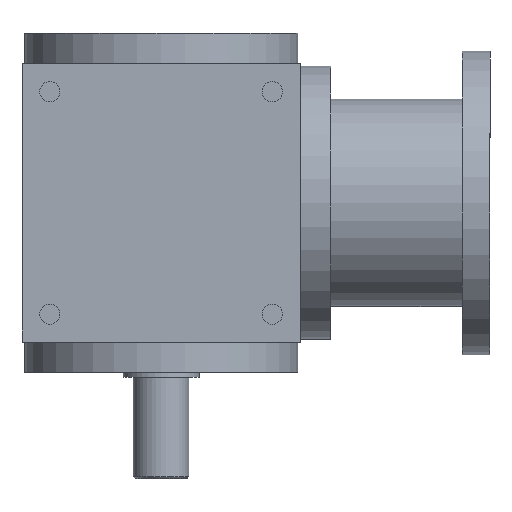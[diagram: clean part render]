
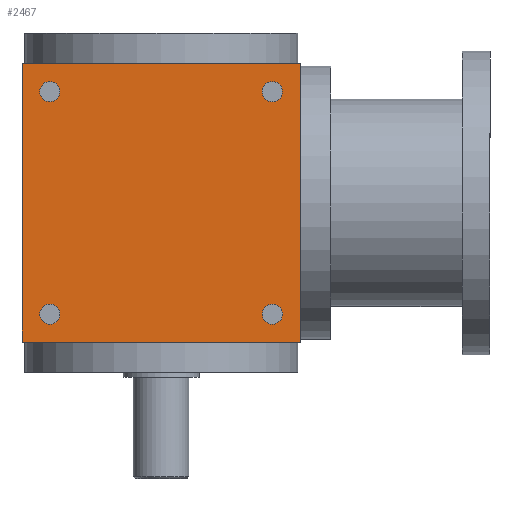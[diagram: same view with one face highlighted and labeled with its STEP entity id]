
A CAD part, left-side view. The second image highlights one B-rep face of the part: STEP entity #2467.
In plain terms, the highlighted planar face has unit normal (-1, 0, 0).
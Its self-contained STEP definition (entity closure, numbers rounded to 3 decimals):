
#134 = EDGE_LOOP ( 'NONE', ( #4247, #3484 ) ) ;
#158 = CIRCLE ( 'NONE', #550, 4. ) ;
#201 = EDGE_CURVE ( 'NONE', #5040, #2245, #2135, .T. ) ;
#222 = VERTEX_POINT ( 'NONE', #4947 ) ;
#319 = EDGE_LOOP ( 'NONE', ( #2354, #1350 ) ) ;
#322 = DIRECTION ( 'NONE',  ( 0., -1., 0. ) ) ;
#334 = DIRECTION ( 'NONE',  ( 0., 0., -1. ) ) ;
#380 = DIRECTION ( 'NONE',  ( 1., 0., 0. ) ) ;
#459 = ORIENTED_EDGE ( 'NONE', *, *, #3341, .F. ) ;
#488 = CARTESIAN_POINT ( 'NONE',  ( -55., -44., -44. ) ) ;
#513 = DIRECTION ( 'NONE',  ( 0., 0., -1. ) ) ;
#550 = AXIS2_PLACEMENT_3D ( 'NONE', #4730, #4689, #4655 ) ;
#554 = VERTEX_POINT ( 'NONE', #3748 ) ;
#567 = EDGE_CURVE ( 'NONE', #4233, #869, #1444, .T. ) ;
#684 = CARTESIAN_POINT ( 'NONE',  ( -55., 55., 55. ) ) ;
#691 = EDGE_CURVE ( 'NONE', #1666, #222, #1257, .T. ) ;
#702 = CARTESIAN_POINT ( 'NONE',  ( -55., 44., -48. ) ) ;
#726 = DIRECTION ( 'NONE',  ( 0., 0., -1. ) ) ;
#869 = VERTEX_POINT ( 'NONE', #1235 ) ;
#908 = CARTESIAN_POINT ( 'NONE',  ( -55., 55., 55. ) ) ;
#914 = DIRECTION ( 'NONE',  ( 1., 0., 0. ) ) ;
#937 = EDGE_LOOP ( 'NONE', ( #2712, #1329 ) ) ;
#944 = CARTESIAN_POINT ( 'NONE',  ( -55., -55., -55. ) ) ;
#968 = LINE ( 'NONE', #4923, #1025 ) ;
#979 = CARTESIAN_POINT ( 'NONE',  ( -55., -44., 48. ) ) ;
#1014 = DIRECTION ( 'NONE',  ( 1., 0., 0. ) ) ;
#1025 = VECTOR ( 'NONE', #4911, 1000. ) ;
#1042 = CARTESIAN_POINT ( 'NONE',  ( -55., 44., 44. ) ) ;
#1074 = ORIENTED_EDGE ( 'NONE', *, *, #5075, .T. ) ;
#1089 = CARTESIAN_POINT ( 'NONE',  ( -55., -44., 44. ) ) ;
#1139 = DIRECTION ( 'NONE',  ( 0., 0., -1. ) ) ;
#1235 = CARTESIAN_POINT ( 'NONE',  ( -55., -44., -48. ) ) ;
#1257 = CIRCLE ( 'NONE', #2752, 4. ) ;
#1329 = ORIENTED_EDGE ( 'NONE', *, *, #691, .T. ) ;
#1350 = ORIENTED_EDGE ( 'NONE', *, *, #5087, .T. ) ;
#1360 = DIRECTION ( 'NONE',  ( 1., 0., 0. ) ) ;
#1374 = CARTESIAN_POINT ( 'NONE',  ( -55., 44., -44. ) ) ;
#1391 = CARTESIAN_POINT ( 'NONE',  ( -55., -55., 55. ) ) ;
#1444 = CIRCLE ( 'NONE', #2905, 4. ) ;
#1447 = VECTOR ( 'NONE', #513, 1000. ) ;
#1454 = LINE ( 'NONE', #1391, #1447 ) ;
#1483 = AXIS2_PLACEMENT_3D ( 'NONE', #2499, #2396, #4633 ) ;
#1535 = EDGE_CURVE ( 'NONE', #4427, #554, #4841, .T. ) ;
#1666 = VERTEX_POINT ( 'NONE', #4664 ) ;
#1760 = AXIS2_PLACEMENT_3D ( 'NONE', #1042, #914, #726 ) ;
#1786 = EDGE_LOOP ( 'NONE', ( #5039, #459, #3373, #5043 ) ) ;
#1800 = LINE ( 'NONE', #4091, #1874 ) ;
#1874 = VECTOR ( 'NONE', #3792, 1000. ) ;
#1895 = VECTOR ( 'NONE', #322, 1000. ) ;
#1897 = LINE ( 'NONE', #684, #1895 ) ;
#2135 = CIRCLE ( 'NONE', #3955, 4. ) ;
#2136 = CARTESIAN_POINT ( 'NONE',  ( -55., -44., -40. ) ) ;
#2242 = DIRECTION ( 'NONE',  ( 0., 0., -1. ) ) ;
#2245 = VERTEX_POINT ( 'NONE', #3384 ) ;
#2246 = DIRECTION ( 'NONE',  ( 1., 0., 0. ) ) ;
#2254 = EDGE_CURVE ( 'NONE', #4413, #4349, #968, .T. ) ;
#2274 = CARTESIAN_POINT ( 'NONE',  ( -55., 44., 44. ) ) ;
#2354 = ORIENTED_EDGE ( 'NONE', *, *, #567, .T. ) ;
#2396 = DIRECTION ( 'NONE',  ( 1., 0., 0. ) ) ;
#2435 = EDGE_CURVE ( 'NONE', #2245, #5040, #158, .T. ) ;
#2467 = ADVANCED_FACE ( 'NONE', ( #5050, #4993, #5062, #5031, #4973 ), #3571, .F. ) ;
#2499 = CARTESIAN_POINT ( 'NONE',  ( -55., -44., 44. ) ) ;
#2705 = ORIENTED_EDGE ( 'NONE', *, *, #1535, .T. ) ;
#2712 = ORIENTED_EDGE ( 'NONE', *, *, #2879, .T. ) ;
#2730 = VERTEX_POINT ( 'NONE', #908 ) ;
#2752 = AXIS2_PLACEMENT_3D ( 'NONE', #2274, #2246, #2242 ) ;
#2879 = EDGE_CURVE ( 'NONE', #222, #1666, #3350, .T. ) ;
#2905 = AXIS2_PLACEMENT_3D ( 'NONE', #2995, #2980, #2967 ) ;
#2967 = DIRECTION ( 'NONE',  ( 0., 0., -1. ) ) ;
#2980 = DIRECTION ( 'NONE',  ( 1., 0., 0. ) ) ;
#2995 = CARTESIAN_POINT ( 'NONE',  ( -55., -44., -44. ) ) ;
#3282 = CARTESIAN_POINT ( 'NONE',  ( -55., -55., 55. ) ) ;
#3291 = EDGE_CURVE ( 'NONE', #2730, #3957, #1897, .T. ) ;
#3320 = DIRECTION ( 'NONE',  ( 0., 0., -1. ) ) ;
#3341 = EDGE_CURVE ( 'NONE', #4349, #2730, #1800, .T. ) ;
#3350 = CIRCLE ( 'NONE', #1760, 4. ) ;
#3373 = ORIENTED_EDGE ( 'NONE', *, *, #2254, .F. ) ;
#3377 = DIRECTION ( 'NONE',  ( 1., 0., 0. ) ) ;
#3384 = CARTESIAN_POINT ( 'NONE',  ( -55., 44., -40. ) ) ;
#3484 = ORIENTED_EDGE ( 'NONE', *, *, #201, .T. ) ;
#3489 = EDGE_CURVE ( 'NONE', #3957, #4413, #1454, .T. ) ;
#3571 = PLANE ( 'NONE',  #4438 ) ;
#3748 = CARTESIAN_POINT ( 'NONE',  ( -55., -44., 40. ) ) ;
#3792 = DIRECTION ( 'NONE',  ( 0., 0., 1. ) ) ;
#3922 = CARTESIAN_POINT ( 'NONE',  ( -55., -55., 55. ) ) ;
#3955 = AXIS2_PLACEMENT_3D ( 'NONE', #1374, #1360, #4978 ) ;
#3957 = VERTEX_POINT ( 'NONE', #3282 ) ;
#4091 = CARTESIAN_POINT ( 'NONE',  ( -55., 55., 55. ) ) ;
#4180 = AXIS2_PLACEMENT_3D ( 'NONE', #488, #380, #334 ) ;
#4223 = AXIS2_PLACEMENT_3D ( 'NONE', #1089, #1014, #1139 ) ;
#4233 = VERTEX_POINT ( 'NONE', #2136 ) ;
#4247 = ORIENTED_EDGE ( 'NONE', *, *, #2435, .T. ) ;
#4349 = VERTEX_POINT ( 'NONE', #4704 ) ;
#4413 = VERTEX_POINT ( 'NONE', #944 ) ;
#4427 = VERTEX_POINT ( 'NONE', #979 ) ;
#4438 = AXIS2_PLACEMENT_3D ( 'NONE', #3922, #3377, #3320 ) ;
#4444 = CIRCLE ( 'NONE', #4180, 4. ) ;
#4464 = CIRCLE ( 'NONE', #4223, 4. ) ;
#4511 = EDGE_LOOP ( 'NONE', ( #2705, #1074 ) ) ;
#4633 = DIRECTION ( 'NONE',  ( 0., 0., -1. ) ) ;
#4655 = DIRECTION ( 'NONE',  ( 0., 0., -1. ) ) ;
#4664 = CARTESIAN_POINT ( 'NONE',  ( -55., 44., 40. ) ) ;
#4689 = DIRECTION ( 'NONE',  ( 1., 0., 0. ) ) ;
#4704 = CARTESIAN_POINT ( 'NONE',  ( -55., 55., -55. ) ) ;
#4730 = CARTESIAN_POINT ( 'NONE',  ( -55., 44., -44. ) ) ;
#4841 = CIRCLE ( 'NONE', #1483, 4. ) ;
#4911 = DIRECTION ( 'NONE',  ( 0., 1., 0. ) ) ;
#4923 = CARTESIAN_POINT ( 'NONE',  ( -55., 55., -55. ) ) ;
#4947 = CARTESIAN_POINT ( 'NONE',  ( -55., 44., 48. ) ) ;
#4973 = FACE_BOUND ( 'NONE', #319, .T. ) ;
#4978 = DIRECTION ( 'NONE',  ( 0., 0., -1. ) ) ;
#4993 = FACE_BOUND ( 'NONE', #937, .T. ) ;
#5031 = FACE_BOUND ( 'NONE', #4511, .T. ) ;
#5039 = ORIENTED_EDGE ( 'NONE', *, *, #3291, .F. ) ;
#5040 = VERTEX_POINT ( 'NONE', #702 ) ;
#5043 = ORIENTED_EDGE ( 'NONE', *, *, #3489, .F. ) ;
#5050 = FACE_OUTER_BOUND ( 'NONE', #1786, .T. ) ;
#5062 = FACE_BOUND ( 'NONE', #134, .T. ) ;
#5075 = EDGE_CURVE ( 'NONE', #554, #4427, #4464, .T. ) ;
#5087 = EDGE_CURVE ( 'NONE', #869, #4233, #4444, .T. ) ;
